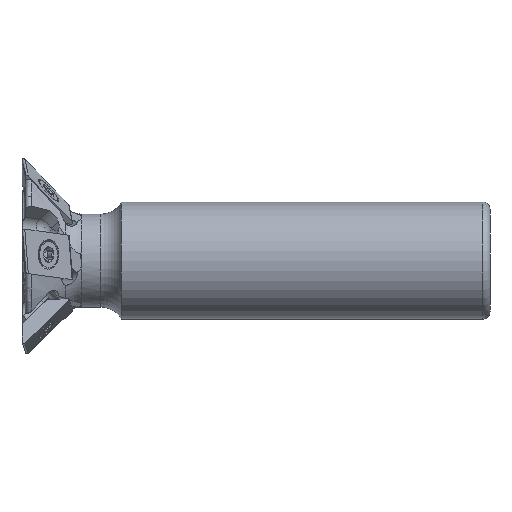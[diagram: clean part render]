
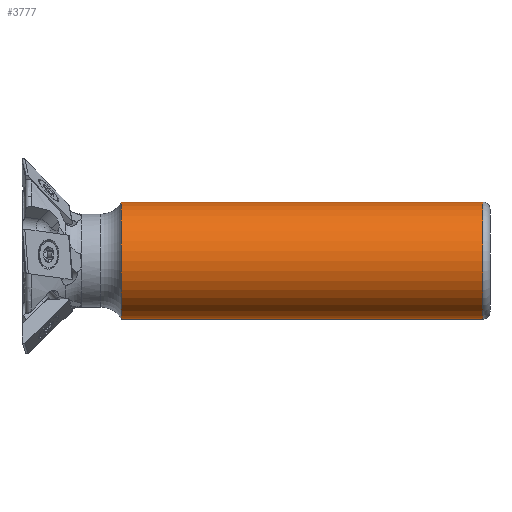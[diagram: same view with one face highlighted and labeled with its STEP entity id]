
A CAD part, front view. The second image highlights one B-rep face of the part: STEP entity #3777.
In plain terms, the highlighted cylindrical face has radius 12.696 mm (diameter 25.392 mm), a partial arc.
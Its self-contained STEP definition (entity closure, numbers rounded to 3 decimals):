
#544 = CARTESIAN_POINT ( 'NONE',  ( -207.095, 0., -12.696 ) ) ;
#715 = CARTESIAN_POINT ( 'NONE',  ( -207.095, 0., 0. ) ) ;
#1522 = DIRECTION ( 'NONE',  ( 0., 0., 1. ) ) ;
#1705 = LINE ( 'NONE', #2780, #3497 ) ;
#1839 = AXIS2_PLACEMENT_3D ( 'NONE', #9738, #7508, #8316 ) ;
#1959 = DIRECTION ( 'NONE',  ( -1., 0., 0. ) ) ;
#2707 = VERTEX_POINT ( 'NONE', #3625 ) ;
#2728 = FACE_OUTER_BOUND ( 'NONE', #7870, .T. ) ;
#2780 = CARTESIAN_POINT ( 'NONE',  ( -207.095, 0., 12.696 ) ) ;
#2862 = CARTESIAN_POINT ( 'NONE',  ( -1.588, 0., -12.696 ) ) ;
#2907 = EDGE_CURVE ( 'NONE', #8774, #5321, #9483, .T. ) ;
#3061 = CYLINDRICAL_SURFACE ( 'NONE', #4742, 12.696 ) ;
#3420 = CARTESIAN_POINT ( 'NONE',  ( -80.01, 0., -12.696 ) ) ;
#3488 = ORIENTED_EDGE ( 'NONE', *, *, #6030, .F. ) ;
#3497 = VECTOR ( 'NONE', #4994, 1000. ) ;
#3551 = ORIENTED_EDGE ( 'NONE', *, *, #2907, .T. ) ;
#3625 = CARTESIAN_POINT ( 'NONE',  ( -80.01, 0., 12.696 ) ) ;
#3777 = ADVANCED_FACE ( 'NONE', ( #2728 ), #3061, .T. ) ;
#3919 = DIRECTION ( 'NONE',  ( 0., 0., 1. ) ) ;
#4197 = ORIENTED_EDGE ( 'NONE', *, *, #9020, .F. ) ;
#4627 = DIRECTION ( 'NONE',  ( -1., 0., 0. ) ) ;
#4742 = AXIS2_PLACEMENT_3D ( 'NONE', #715, #7576, #1522 ) ;
#4994 = DIRECTION ( 'NONE',  ( -1., 0., 0. ) ) ;
#5319 = CARTESIAN_POINT ( 'NONE',  ( -80.01, 0., 0. ) ) ;
#5321 = VERTEX_POINT ( 'NONE', #9391 ) ;
#6030 = EDGE_CURVE ( 'NONE', #6216, #2707, #7900, .T. ) ;
#6216 = VERTEX_POINT ( 'NONE', #3420 ) ;
#6928 = ORIENTED_EDGE ( 'NONE', *, *, #9362, .T. ) ;
#7508 = DIRECTION ( 'NONE',  ( -1., 0., 0. ) ) ;
#7576 = DIRECTION ( 'NONE',  ( -1., 0., 0. ) ) ;
#7743 = LINE ( 'NONE', #544, #8563 ) ;
#7870 = EDGE_LOOP ( 'NONE', ( #4197, #3551, #6928, #3488 ) ) ;
#7900 = CIRCLE ( 'NONE', #9010, 12.696 ) ;
#8316 = DIRECTION ( 'NONE',  ( 0., 0., 1. ) ) ;
#8563 = VECTOR ( 'NONE', #1959, 1000. ) ;
#8774 = VERTEX_POINT ( 'NONE', #2862 ) ;
#9010 = AXIS2_PLACEMENT_3D ( 'NONE', #5319, #4627, #3919 ) ;
#9020 = EDGE_CURVE ( 'NONE', #8774, #6216, #7743, .T. ) ;
#9362 = EDGE_CURVE ( 'NONE', #5321, #2707, #1705, .T. ) ;
#9391 = CARTESIAN_POINT ( 'NONE',  ( -1.588, 0., 12.696 ) ) ;
#9483 = CIRCLE ( 'NONE', #1839, 12.696 ) ;
#9738 = CARTESIAN_POINT ( 'NONE',  ( -1.588, 0., 0. ) ) ;
